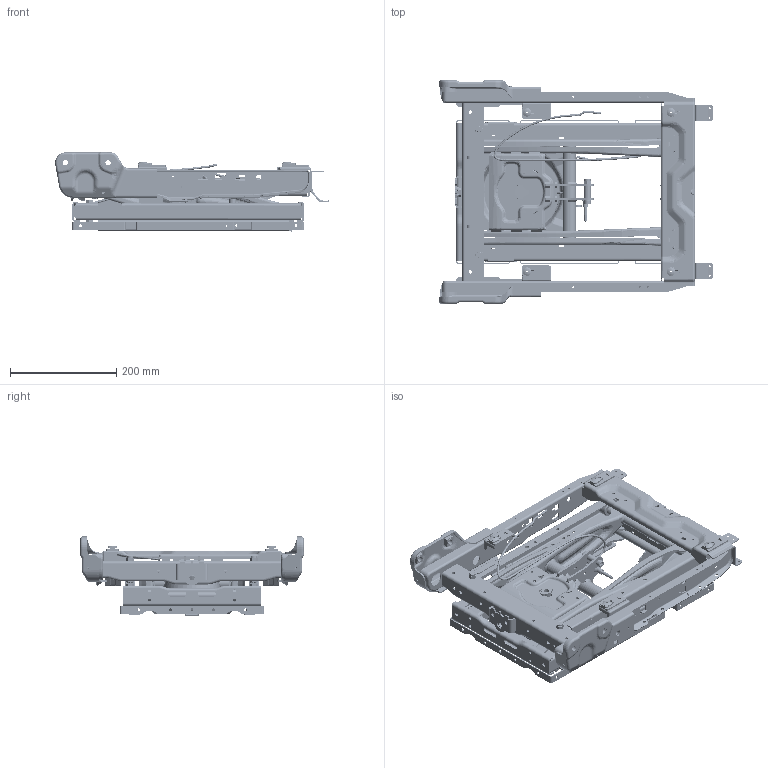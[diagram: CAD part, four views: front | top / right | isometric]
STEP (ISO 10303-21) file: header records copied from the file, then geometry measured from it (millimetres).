
FILE_DESCRIPTION(('CATIA V5 STEP Exchange'),'2;1');
FILE_NAME('D:\Gao Bingchuan\Desktop\SHT0016420_A_20230920.stp','2023-09-20T03:58:26+00:00',('none'),('none'),'CATIA Version 5 Release 20 GA (IN-10)','CATIA V5 STEP AP203 Edition 2','none');
FILE_SCHEMA(('AP203_CONFIGURATION_CONTROLLED_3D_DESIGN_OF_MECHANICAL_PARTS_AND_ASSEMBLIES_MIM_LF { 1 0 10303 403 2 1 2}'));
Products named in the file (84): SHT0016420; SHT0016618; SHT0016571; SHT0016542; SQX3000-6805422; SQX3000-6805318; SHT0012269; SHT0012267; Q37110; H4B-6805326; SHT0016547; SHT0016545; SHT0014594; SQX3000-6805423; SQX3000-6805317; SQX3000-6805319; SHT0014563; SHT0016543; SHT0016544; BFA0000400; SHT0012268; SHT0012266; Q37106; H5-6801110; BFA0010096; SHT0011517; SHT0011518; SHT0011519; SHT0010047; SHT0011520; SHT0010049; SHT0010050; SHT0010051; SHT0011521; SHT0010054; SHT0010052; SHT0011521-H; SHT0011519-H; BAS0010003; SHT0010056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
Assembly tree (129 placements, depth 6):
  SHT0016420
    SHT0016618
      SHT0016571
        SHT0016542
        SQX3000-6805422
        SQX3000-6805318  x2
        SHT0012269
          SHT0012267
          Q37110  x2
          H4B-6805326
        SHT0016547
        SHT0016545  x2
        SHT0014594  x2
        SQX3000-6805423
        SQX3000-6805317
        SQX3000-6805319
        SHT0014563
        SHT0016543
          SHT0016544
          BFA0000400
        SHT0012268
          Q37110  x2
          H4B-6805326
          SHT0012266
        Q37106
      H5-6801110  x4
      BFA0010096  x4
    SHT0011517
      SHT0011518
        SHT0011519
          SHT0010047
          SHT0011520
          SHT0010049
          SHT0010050  x2
          SHT0010051
          SHT0011521
            SHT0010054
            SHT0010052
            SHT0011521-H
          SHT0011519-H
          SHT0010052
        BAS0010003  x2
      SHT0010056  x2
        SHT0010057
        SHT0010058
        SHT0010056-H
      SHT0010047
      SHT0010049
      SHT0011517-H
      SHT0010306
        SHT0010053
        BFA0010062
    SHT0016548  x4
    SHT0010811  x4
      SHT0010812
      SHT0010813
    SHT0013932  x2
    SHT0010230
      SHT0011580
      SHT0011211
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Bounding box: 514.38 x 420 x 148.85 mm (x, y, z)
Volume: 2313239.9 mm3; surface area: 1628409.6 mm2
Topology: 172 solids, 172 shells, 10967 faces, 29243 edges, 18653 vertices
Faces by surface type: cylinder 4126, plane 3159, bspline 1403, torus 894, cone 702, extrusion 426, sphere 178, revolution 79
Entity records: 510839 total; most frequent: CARTESIAN_POINT 345807, ORIENTED_EDGE 38700, DIRECTION 24232, EDGE_CURVE 19350, VERTEX_POINT 12541, AXIS2_PLACEMENT_3D 10152, VECTOR 8363, LINE 7981
